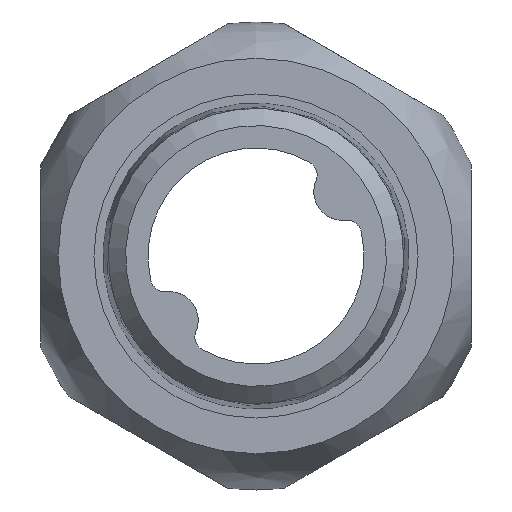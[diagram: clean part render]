
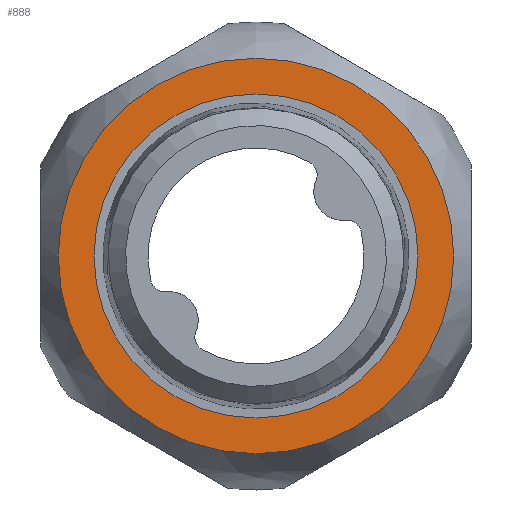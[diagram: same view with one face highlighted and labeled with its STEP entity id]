
A CAD part, left-side view. The second image highlights one B-rep face of the part: STEP entity #888.
In plain terms, the highlighted planar face has unit normal (-1, 0, 0).
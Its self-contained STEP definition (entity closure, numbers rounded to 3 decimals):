
#88=FACE_BOUND('',#194,.T.);
#109=PLANE('',#1052);
#134=FACE_OUTER_BOUND('',#193,.T.);
#193=EDGE_LOOP('',(#630));
#194=EDGE_LOOP('',(#631));
#337=CIRCLE('',#1053,13.736);
#338=CIRCLE('',#1054,11.25);
#408=VERTEX_POINT('',#1839);
#409=VERTEX_POINT('',#1841);
#496=EDGE_CURVE('',#408,#408,#337,.T.);
#497=EDGE_CURVE('',#409,#409,#338,.T.);
#630=ORIENTED_EDGE('',*,*,#496,.F.);
#631=ORIENTED_EDGE('',*,*,#497,.T.);
#888=ADVANCED_FACE('',(#134,#88),#109,.T.);
#1052=AXIS2_PLACEMENT_3D('',#1838,#1199,#1200);
#1053=AXIS2_PLACEMENT_3D('',#1840,#1201,#1202);
#1054=AXIS2_PLACEMENT_3D('',#1842,#1203,#1204);
#1199=DIRECTION('center_axis',(-1.,0.,0.));
#1200=DIRECTION('ref_axis',(0.,0.,1.));
#1201=DIRECTION('center_axis',(1.,0.,0.));
#1202=DIRECTION('ref_axis',(0.,1.,0.));
#1203=DIRECTION('center_axis',(1.,0.,0.));
#1204=DIRECTION('ref_axis',(0.,1.,0.));
#1838=CARTESIAN_POINT('Origin',(0.,12.493,
0.));
#1839=CARTESIAN_POINT('',(0.,0.,13.736));
#1840=CARTESIAN_POINT('Origin',(0.,0.,0.));
#1841=CARTESIAN_POINT('',(0.,-11.25,0.));
#1842=CARTESIAN_POINT('Origin',(0.,0.,0.));
